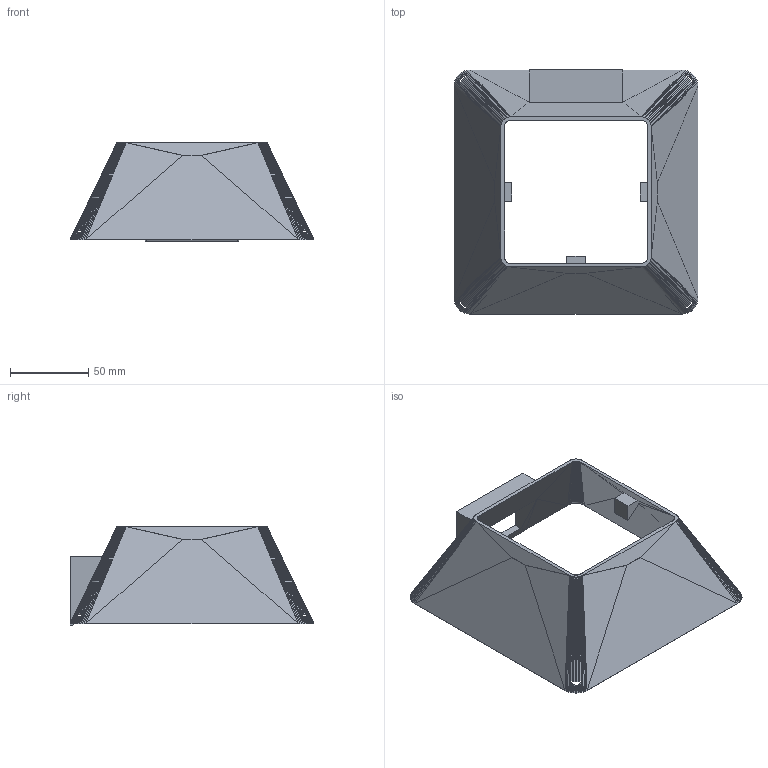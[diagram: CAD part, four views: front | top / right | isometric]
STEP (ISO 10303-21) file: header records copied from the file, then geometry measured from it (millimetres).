
FILE_DESCRIPTION(('Open CASCADE Model'),'2;1');
FILE_NAME('Open CASCADE Shape Model','2026-08-07T13:51:16',('Author'),( 'Open CASCADE'),'Open CASCADE STEP processor 7.9','Open CASCADE 7.9' ,'Unknown');
FILE_SCHEMA(('AUTOMOTIVE_DESIGN { 1 0 10303 214 1 1 1 1 }'));
Products named in the file (1): 集煙罩
Bounding box: 156 x 156 x 63 mm (x, y, z)
Volume: 83098.5 mm3; surface area: 71554 mm2
Topology: 1 solids, 1 shells, 1234 faces, 2188 edges, 946 vertices
Faces by surface type: plane 1234
Entity records: 55546 total; most frequent: DIRECTION 9034, CARTESIAN_POINT 8745, LINE 6564, VECTOR 6564, ORIENTED_EDGE 4376, PCURVE 4376, DEFINITIONAL_REPRESENTATION 4376, EDGE_CURVE 2188
